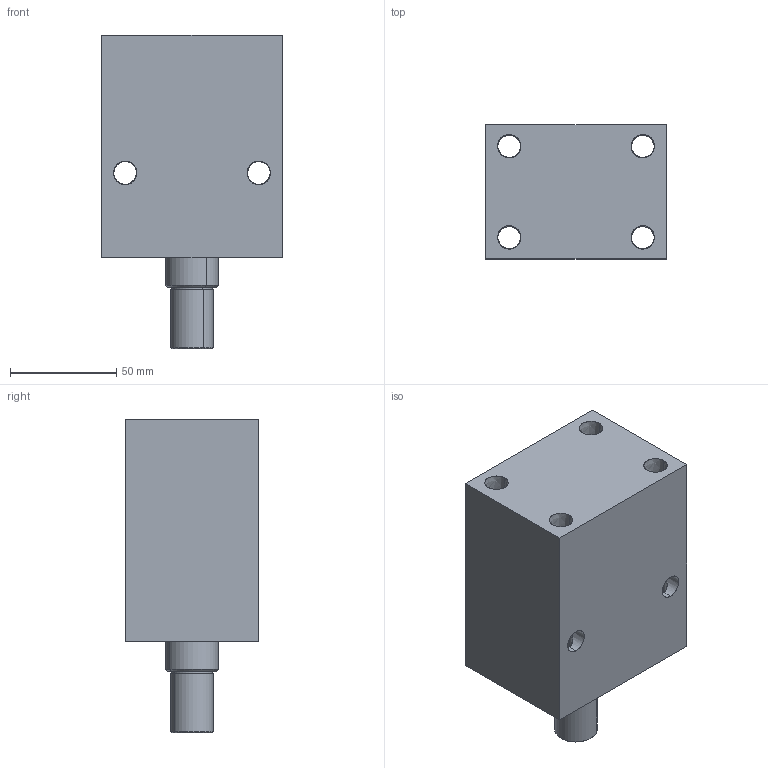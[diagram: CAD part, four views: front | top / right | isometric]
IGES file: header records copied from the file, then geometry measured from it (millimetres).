
Start section: SolidWorks IGES file using analytic representation for surfaces
Global section: file name: D:\karuppas\Clasp\3D model\Block cylinder B01C-Male thread - Copy\B01C-350M\Block cylinder_B01C-350M.IGS; native system: SolidWorks 2017; preprocessor: SolidWorks 2017; author: pc; date: 220709.234121; units: millimetre
Bounding box: 85 x 63 x 148 mm (x, y, z)
Surface area: 72946 mm2 (no closed solid volume)
Topology: 0 solids, 0 shells, 359 faces, 5524 edges, 5520 vertices
Faces by surface type: bspline 305, revolution 54
